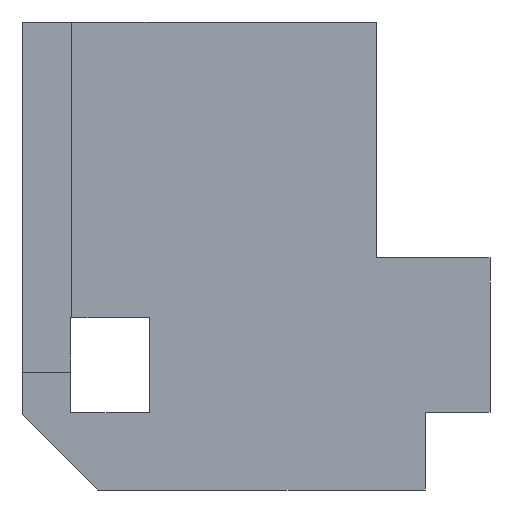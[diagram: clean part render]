
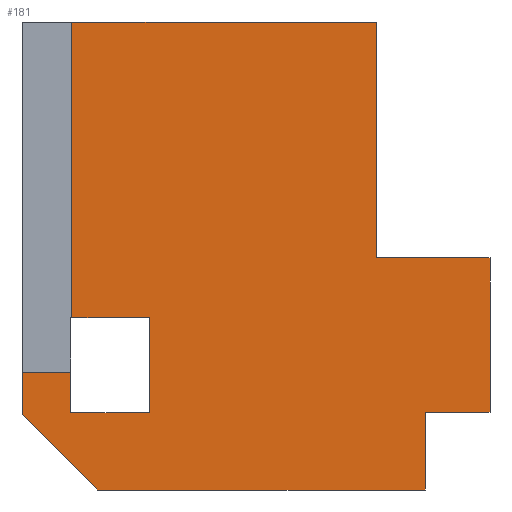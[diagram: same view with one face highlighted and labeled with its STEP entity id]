
A CAD part, front view. The second image highlights one B-rep face of the part: STEP entity #181.
In plain terms, the highlighted planar face has unit normal (0, -1, 0).
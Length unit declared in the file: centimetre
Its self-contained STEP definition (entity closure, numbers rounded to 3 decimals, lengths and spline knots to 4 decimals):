
#9 = VERTEX_POINT ( 'NONE', #504 ) ;
#14 = DIRECTION ( 'NONE',  ( 1., 0., 0. ) ) ;
#15 = ORIENTED_EDGE ( 'NONE', *, *, #649, .F. ) ;
#18 = LINE ( 'NONE', #70, #175 ) ;
#21 = CARTESIAN_POINT ( 'NONE',  ( 757.3239, 0., 495.7736 ) ) ;
#24 = CARTESIAN_POINT ( 'NONE',  ( 861.7537, 0., 166.4056 ) ) ;
#26 = DIRECTION ( 'NONE',  ( 0., 0., 1. ) ) ;
#29 = VECTOR ( 'NONE', #660, 100. ) ;
#41 = DIRECTION ( 'NONE',  ( 0., 0., 1. ) ) ;
#46 = EDGE_CURVE ( 'NONE', #74, #357, #90, .T. ) ;
#47 = EDGE_CURVE ( 'NONE', #362, #670, #262, .T. ) ;
#53 = CARTESIAN_POINT ( 'NONE',  ( 0., 0., 161.5089 ) ) ;
#70 = CARTESIAN_POINT ( 'NONE',  ( 0., 0., 1000. ) ) ;
#73 = VECTOR ( 'NONE', #339, 100. ) ;
#74 = VERTEX_POINT ( 'NONE', #322 ) ;
#77 = CARTESIAN_POINT ( 'NONE',  ( 272.5369, 0., 164.5421 ) ) ;
#78 = CARTESIAN_POINT ( 'NONE',  ( 757.3239, 0., 495.7736 ) ) ;
#88 = LINE ( 'NONE', #259, #155 ) ;
#90 = LINE ( 'NONE', #532, #104 ) ;
#102 = ORIENTED_EDGE ( 'NONE', *, *, #527, .F. ) ;
#103 = VERTEX_POINT ( 'NONE', #678 ) ;
#104 = VECTOR ( 'NONE', #41, 100. ) ;
#107 = EDGE_LOOP ( 'NONE', ( #623, #237, #192, #144, #102, #399, #15, #116, #293, #377, #110, #469, #221, #640, #124 ) ) ;
#110 = ORIENTED_EDGE ( 'NONE', *, *, #227, .F. ) ;
#116 = ORIENTED_EDGE ( 'NONE', *, *, #301, .T. ) ;
#122 = LINE ( 'NONE', #126, #73 ) ;
#124 = ORIENTED_EDGE ( 'NONE', *, *, #159, .T. ) ;
#126 = CARTESIAN_POINT ( 'NONE',  ( 0., 0., 0. ) ) ;
#128 = LINE ( 'NONE', #673, #359 ) ;
#144 = ORIENTED_EDGE ( 'NONE', *, *, #341, .F. ) ;
#147 = CARTESIAN_POINT ( 'NONE',  ( 106.5469, 0., 1000. ) ) ;
#155 = VECTOR ( 'NONE', #364, 100. ) ;
#159 = EDGE_CURVE ( 'NONE', #257, #523, #512, .T. ) ;
#170 = VERTEX_POINT ( 'NONE', #606 ) ;
#175 = VECTOR ( 'NONE', #14, 100. ) ;
#181 = ADVANCED_FACE ( 'NONE', ( #401 ), #567, .F. ) ;
#188 = CARTESIAN_POINT ( 'NONE',  ( 103.7714, 0., 164.5421 ) ) ;
#192 = ORIENTED_EDGE ( 'NONE', *, *, #445, .F. ) ;
#194 = CARTESIAN_POINT ( 'NONE',  ( 0., 0., 161.5089 ) ) ;
#213 = VECTOR ( 'NONE', #574, 100. ) ;
#221 = ORIENTED_EDGE ( 'NONE', *, *, #47, .F. ) ;
#222 = VECTOR ( 'NONE', #265, 100. ) ;
#225 = LINE ( 'NONE', #326, #520 ) ;
#227 = EDGE_CURVE ( 'NONE', #9, #674, #526, .T. ) ;
#230 = VERTEX_POINT ( 'NONE', #557 ) ;
#231 = DIRECTION ( 'NONE',  ( -1., 0., 0. ) ) ;
#236 = VECTOR ( 'NONE', #459, 100. ) ;
#237 = ORIENTED_EDGE ( 'NONE', *, *, #46, .F. ) ;
#255 = CARTESIAN_POINT ( 'NONE',  ( 861.7537, 0., 0. ) ) ;
#257 = VERTEX_POINT ( 'NONE', #21 ) ;
#259 = CARTESIAN_POINT ( 'NONE',  ( 272.5369, 0., 164.5421 ) ) ;
#262 = LINE ( 'NONE', #478, #222 ) ;
#265 = DIRECTION ( 'NONE',  ( 0., 0., -1. ) ) ;
#283 = LINE ( 'NONE', #587, #498 ) ;
#293 = ORIENTED_EDGE ( 'NONE', *, *, #689, .T. ) ;
#300 = CARTESIAN_POINT ( 'NONE',  ( 1000., 0., 166.4056 ) ) ;
#301 = EDGE_CURVE ( 'NONE', #103, #496, #536, .T. ) ;
#304 = DIRECTION ( 'NONE',  ( 0., 1., 0. ) ) ;
#322 = CARTESIAN_POINT ( 'NONE',  ( 106.5469, 0., 368.5283 ) ) ;
#326 = CARTESIAN_POINT ( 'NONE',  ( 103.7714, 0., 368.5283 ) ) ;
#339 = DIRECTION ( 'NONE',  ( 1., 0., 0. ) ) ;
#340 = DIRECTION ( 'NONE',  ( 0., 0., -1. ) ) ;
#341 = EDGE_CURVE ( 'NONE', #555, #170, #88, .T. ) ;
#344 = LINE ( 'NONE', #188, #236 ) ;
#348 = CARTESIAN_POINT ( 'NONE',  ( 757.3239, 0., 1000. ) ) ;
#352 = EDGE_CURVE ( 'NONE', #257, #362, #482, .T. ) ;
#357 = VERTEX_POINT ( 'NONE', #147 ) ;
#359 = VECTOR ( 'NONE', #365, 100. ) ;
#362 = VERTEX_POINT ( 'NONE', #366 ) ;
#364 = DIRECTION ( 'NONE',  ( 0., 0., 1. ) ) ;
#365 = DIRECTION ( 'NONE',  ( 1., 0., 0. ) ) ;
#366 = CARTESIAN_POINT ( 'NONE',  ( 1000., 0., 495.7736 ) ) ;
#373 = VERTEX_POINT ( 'NONE', #433 ) ;
#377 = ORIENTED_EDGE ( 'NONE', *, *, #595, .T. ) ;
#399 = ORIENTED_EDGE ( 'NONE', *, *, #494, .F. ) ;
#401 = FACE_OUTER_BOUND ( 'NONE', #107, .T. ) ;
#426 = VECTOR ( 'NONE', #471, 100. ) ;
#433 = CARTESIAN_POINT ( 'NONE',  ( 103.7714, 0., 251.7844 ) ) ;
#445 = EDGE_CURVE ( 'NONE', #170, #74, #225, .T. ) ;
#450 = VERTEX_POINT ( 'NONE', #644 ) ;
#459 = DIRECTION ( 'NONE',  ( 1., 0., 0. ) ) ;
#469 = ORIENTED_EDGE ( 'NONE', *, *, #562, .F. ) ;
#471 = DIRECTION ( 'NONE',  ( 0., 0., -1. ) ) ;
#478 = CARTESIAN_POINT ( 'NONE',  ( 1000., 0., 1000. ) ) ;
#479 = CARTESIAN_POINT ( 'NONE',  ( 757.3239, 0., 495.7736 ) ) ;
#482 = LINE ( 'NONE', #479, #487 ) ;
#487 = VECTOR ( 'NONE', #630, 100. ) ;
#494 = EDGE_CURVE ( 'NONE', #373, #450, #283, .T. ) ;
#496 = VERTEX_POINT ( 'NONE', #53 ) ;
#498 = VECTOR ( 'NONE', #542, 100. ) ;
#504 = CARTESIAN_POINT ( 'NONE',  ( 861.7537, 0., 166.4056 ) ) ;
#510 = VECTOR ( 'NONE', #531, 100. ) ;
#512 = LINE ( 'NONE', #78, #213 ) ;
#520 = VECTOR ( 'NONE', #231, 100. ) ;
#523 = VERTEX_POINT ( 'NONE', #348 ) ;
#526 = LINE ( 'NONE', #255, #665 ) ;
#527 = EDGE_CURVE ( 'NONE', #450, #555, #344, .T. ) ;
#530 = CARTESIAN_POINT ( 'NONE',  ( 0., 0., 1000. ) ) ;
#531 = DIRECTION ( 'NONE',  ( 0.707, 0., -0.707 ) ) ;
#532 = CARTESIAN_POINT ( 'NONE',  ( 106.5469, 0., 251.7844 ) ) ;
#536 = LINE ( 'NONE', #530, #426 ) ;
#542 = DIRECTION ( 'NONE',  ( 0., 0., -1. ) ) ;
#549 = EDGE_CURVE ( 'NONE', #357, #523, #18, .T. ) ;
#555 = VERTEX_POINT ( 'NONE', #77 ) ;
#557 = CARTESIAN_POINT ( 'NONE',  ( 161.5089, 0., 0. ) ) ;
#562 = EDGE_CURVE ( 'NONE', #670, #9, #662, .T. ) ;
#567 = PLANE ( 'NONE',  #597 ) ;
#574 = DIRECTION ( 'NONE',  ( 0., 0., 1. ) ) ;
#587 = CARTESIAN_POINT ( 'NONE',  ( 103.7714, 0., 164.5421 ) ) ;
#595 = EDGE_CURVE ( 'NONE', #230, #674, #122, .T. ) ;
#597 = AXIS2_PLACEMENT_3D ( 'NONE', #618, #304, #26 ) ;
#606 = CARTESIAN_POINT ( 'NONE',  ( 272.5369, 0., 368.5283 ) ) ;
#616 = LINE ( 'NONE', #194, #510 ) ;
#618 = CARTESIAN_POINT ( 'NONE',  ( 0., 0., 1000. ) ) ;
#623 = ORIENTED_EDGE ( 'NONE', *, *, #549, .F. ) ;
#630 = DIRECTION ( 'NONE',  ( 1., 0., 0. ) ) ;
#640 = ORIENTED_EDGE ( 'NONE', *, *, #352, .F. ) ;
#644 = CARTESIAN_POINT ( 'NONE',  ( 103.7714, 0., 164.5421 ) ) ;
#649 = EDGE_CURVE ( 'NONE', #103, #373, #128, .T. ) ;
#660 = DIRECTION ( 'NONE',  ( -1., 0., 0. ) ) ;
#662 = LINE ( 'NONE', #24, #29 ) ;
#664 = CARTESIAN_POINT ( 'NONE',  ( 861.7537, 0., 0. ) ) ;
#665 = VECTOR ( 'NONE', #340, 100. ) ;
#670 = VERTEX_POINT ( 'NONE', #300 ) ;
#673 = CARTESIAN_POINT ( 'NONE',  ( 0., 0., 251.7844 ) ) ;
#674 = VERTEX_POINT ( 'NONE', #664 ) ;
#678 = CARTESIAN_POINT ( 'NONE',  ( 0., 0., 251.7844 ) ) ;
#689 = EDGE_CURVE ( 'NONE', #496, #230, #616, .T. ) ;
